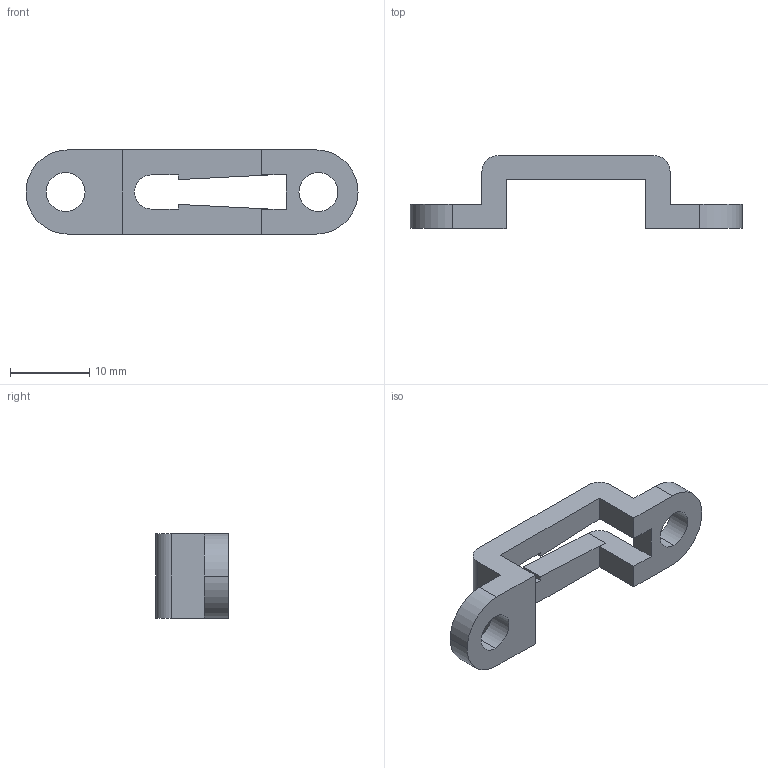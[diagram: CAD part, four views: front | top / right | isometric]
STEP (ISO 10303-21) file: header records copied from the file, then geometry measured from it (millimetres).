
FILE_DESCRIPTION (( 'STEP AP214' ), '1' );
FILE_NAME ('4035_V01_REFERENCE_SEMI-LOCKING_SINGLE_CLIP.STEP', '2025-03-31T13:24:13', ( '' ), ( '' ), 'SwSTEP 2.0', 'SolidWorks 2025', '' );
FILE_SCHEMA (( 'AUTOMOTIVE_DESIGN' ));
Length unit declared in the file: inch
Products named in the file (1): 4035_V01_REFERENCE_SEMI-LOCKING_SINGLE_CLIP
Bounding box: 42.01 x 9.22 x 10.67 mm (x, y, z)
Volume: 1254.9 mm3; surface area: 1455 mm2
Topology: 1 solids, 1 shells, 35 faces, 101 edges, 66 vertices
Faces by surface type: plane 23, cylinder 12
Entity records: 1186 total; most frequent: CARTESIAN_POINT 203, ORIENTED_EDGE 202, DIRECTION 197, EDGE_CURVE 101, VECTOR 77, LINE 77, VERTEX_POINT 66, AXIS2_PLACEMENT_3D 60
